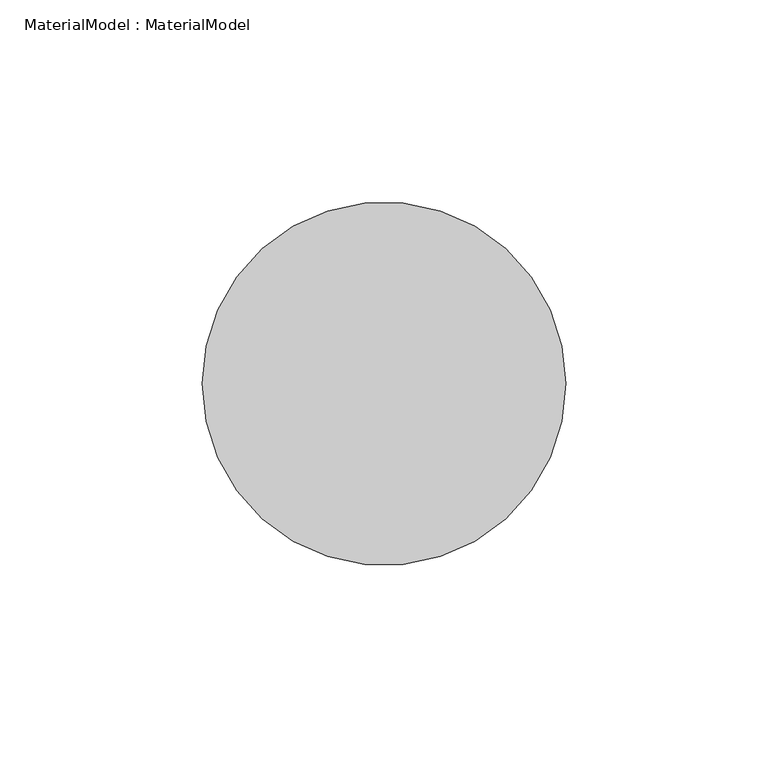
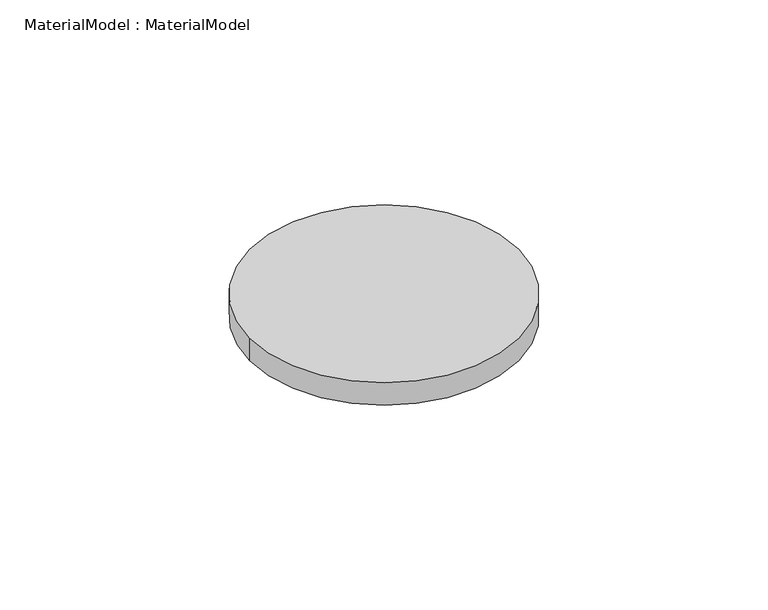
"""IFC4 building model written with IfcOpenShell, lengths in millimetres: proxy geometry, MaterialModel : MaterialModel."""

from ifc_helpers import new_model, si_unit, point, origin, origin_with_axes, origin_2d, place, context, project, spatial, circle_curve, trimmed, segment, composite_curve, outline, extrude, source, transform, mapped, element, save


def materialmodel_materialmodel_e4bf98eb(model_context):
    return source(origin(), model_context, "Body", "SweptSolid", [
        extrude(outline(composite_curve([segment(trimmed(circle_curve(origin_2d(), 45.0), [point((-45.0, 0.0))], [point((45.0, 0.0))], False, "CARTESIAN"), True, "CONTINUOUS"), segment(trimmed(circle_curve(origin_2d(), 45.0), [point((45.0, 0.0))], [point((-45.0, 0.0))], False, "CARTESIAN"), True, "CONTINUOUS")], self_intersect=False)), origin_with_axes(), (0.0, 0.0, 1.0), 7.9296802),
    ])


if __name__ == "__main__":
    model = new_model("IFC4")
    model_context = context("Model", 3, world=origin())
    ifc_project = project(units=[si_unit("LENGTHUNIT", "METRE", prefix="MILLI")], contexts=[model_context])
    site = spatial("IfcSite", under=ifc_project)
    building = spatial("IfcBuilding", under=site)
    placement = place(None, origin())
    materialmodel_materialmodel_shape = materialmodel_materialmodel_e4bf98eb(model_context)
    element("IfcBuildingElementProxy", 1, Name="MaterialModel : MaterialModel", ObjectType="MaterialModel : MaterialModel", at=placement, inside=building, context=model_context, shape_type="MappedRepresentation", body=[
        mapped(materialmodel_materialmodel_shape, transform((0.0, 0.0, 0.0), x_axis=(1.0, 0.0, 0.0), y_axis=(0.0, 1.0, 0.0), z_axis=(0.0, 0.0, 1.0))),
    ])
    save(model, "model.ifc")
